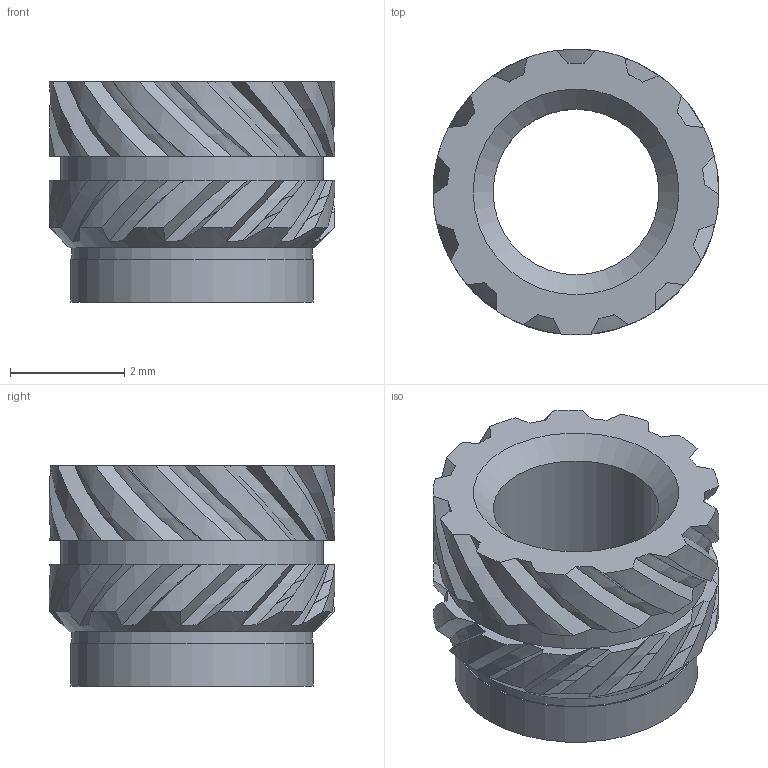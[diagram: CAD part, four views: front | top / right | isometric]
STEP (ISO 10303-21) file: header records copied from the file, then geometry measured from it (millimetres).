
FILE_DESCRIPTION(/* description */ ('STEP AP242 Edition 2','CAx-IF Rec.Pracs.---Representation and Presentation of Product Manufacturing Information (PMI)---4.0---2014-10-13','CAx-IF Rec.Pracs.---3D Tessellated Geometry---0.4---2014-09-14','2;1','CAx-IF Rec.Pracs.---User Defined Attributes---1.5---2016-08-15'),/* implementation_level */ '2;1');
FILE_NAME(/* name */ 'v2_assembly - M3 Threaded Insert (1)',/* time_stamp */ '2026-05-19T16:26:05Z',/* author */ (''),/* organization */ (''),/* preprocessor_version */ 'ST-DEVELOPER v20',/* originating_system */ 'ONSHAPE BY PTC INC, 1.215',/* authorisation */ ' ');
FILE_SCHEMA (('AP242_MANAGED_MODEL_BASED_3D_ENGINEERING_MIM_LF { 1 0 10303 442 3 1 4 }'));
Length unit declared in the file: metre
Products named in the file (1): M3 Threaded Insert
Bounding box: 5 x 5 x 3.85 mm (x, y, z)
Volume: 38.5 mm3; surface area: 123.3 mm2
Topology: 1 solids, 1 shells, 117 faces, 332 edges, 221 vertices
Faces by surface type: bspline 78, cylinder 30, plane 6, cone 3
Full cylindrical faces by diameter (mm): 2.9 x1, 4.2 x1, 4.25 x1, 4.6 x1
Entity records: 5945 total; most frequent: CARTESIAN_POINT 3389, ORIENTED_EDGE 648, DIRECTION 338, EDGE_CURVE 324, VERTEX_POINT 220, B_SPLINE_CURVE_WITH_KNOTS 182, AXIS2_PLACEMENT_3D 156, EDGE_LOOP 130
